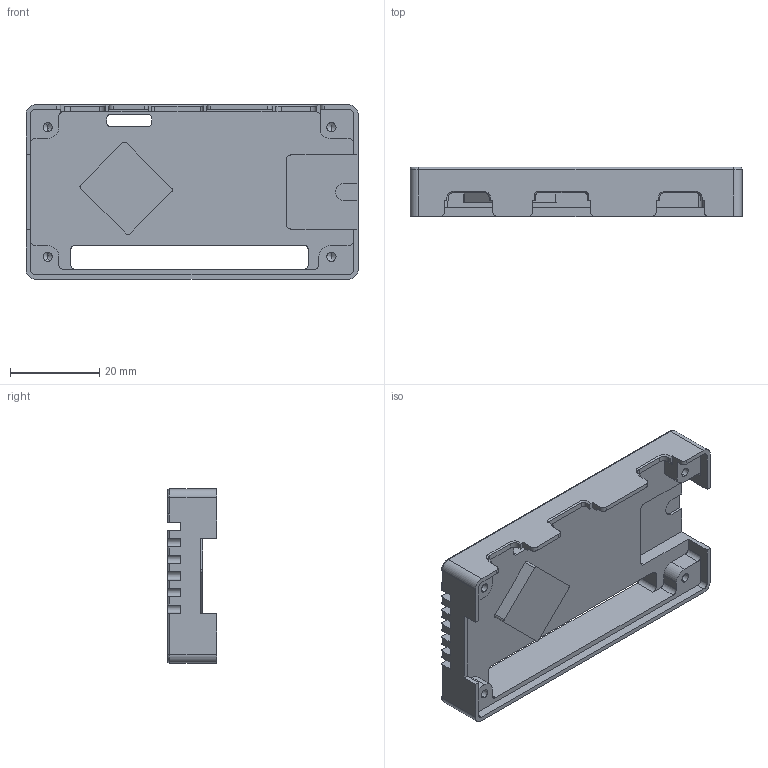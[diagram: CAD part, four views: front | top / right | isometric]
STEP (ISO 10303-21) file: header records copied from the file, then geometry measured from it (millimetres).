
FILE_DESCRIPTION (( 'STEP AP214' ), '1' );
FILE_NAME ('LubanCat ZeroN ¶¥¸Ç.STEP', '2022-11-28T02:53:29', ( '' ), ( '' ), 'SwSTEP 2.0', 'SolidWorks 2021', '' );
FILE_SCHEMA (( 'AUTOMOTIVE_DESIGN' ));
Length unit declared in the file: millimetre
Products named in the file (1): LubanCat ZeroN 階裔
Bounding box: 74.4 x 11 x 39 mm (x, y, z)
Volume: 12728 mm3; surface area: 11514.3 mm2
Topology: 1 solids, 1 shells, 203 faces, 575 edges, 370 vertices
Faces by surface type: plane 110, cylinder 74, cone 15, bspline 2, torus 2
Entity records: 6795 total; most frequent: CARTESIAN_POINT 1228, ORIENTED_EDGE 1134, DIRECTION 1120, EDGE_CURVE 567, VECTOR 400, LINE 400, VERTEX_POINT 370, AXIS2_PLACEMENT_3D 360
